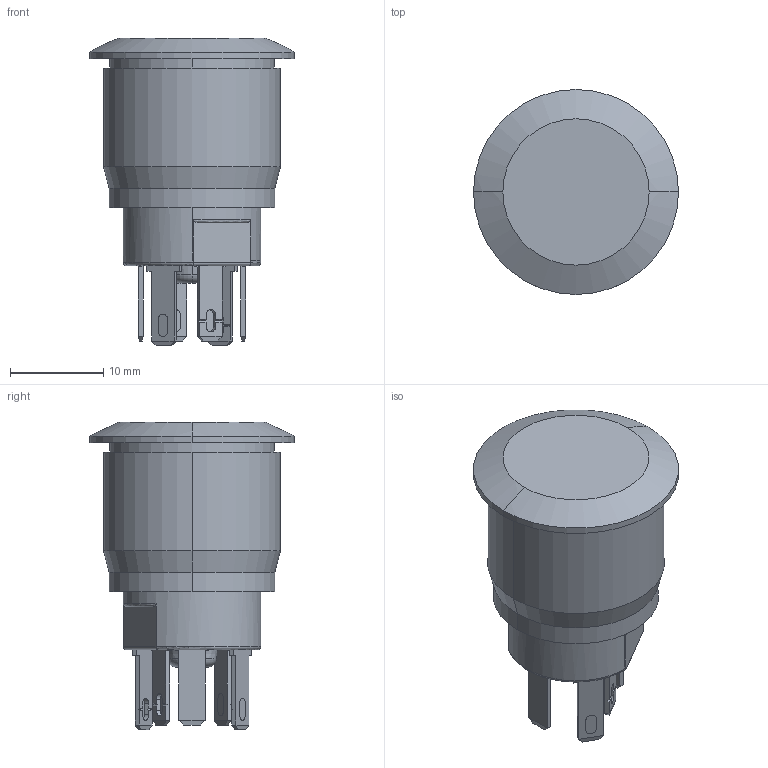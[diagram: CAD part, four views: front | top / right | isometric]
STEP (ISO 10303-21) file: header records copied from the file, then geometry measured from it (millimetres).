
FILE_DESCRIPTION((''),'2;1');
FILE_NAME('AV9V122000084B','2015-06-12T',('mdamaggio'),(''),'CREO PARAMETRIC BY PTC INC, 2014440','CREO PARAMETRIC BY PTC INC, 2014440','');
FILE_SCHEMA(('CONFIG_CONTROL_DESIGN'));
Length unit declared in the file: millimetre
Products named in the file (1): AV9V122000084B
Bounding box: 22 x 22 x 33 mm (x, y, z)
Surface area: 3561.6 mm2 (no closed solid volume)
Topology: 0 solids, 11 shells, 148 faces, 482 edges, 342 vertices
Faces by surface type: plane 116, cylinder 20, torus 6, cone 4, sphere 2
Entity records: 5291 total; most frequent: CARTESIAN_POINT 1044, DIRECTION 846, ORIENTED_EDGE 828, EDGE_CURVE 482, VECTOR 398, LINE 398, VERTEX_POINT 342, AXIS2_PLACEMENT_3D 224
